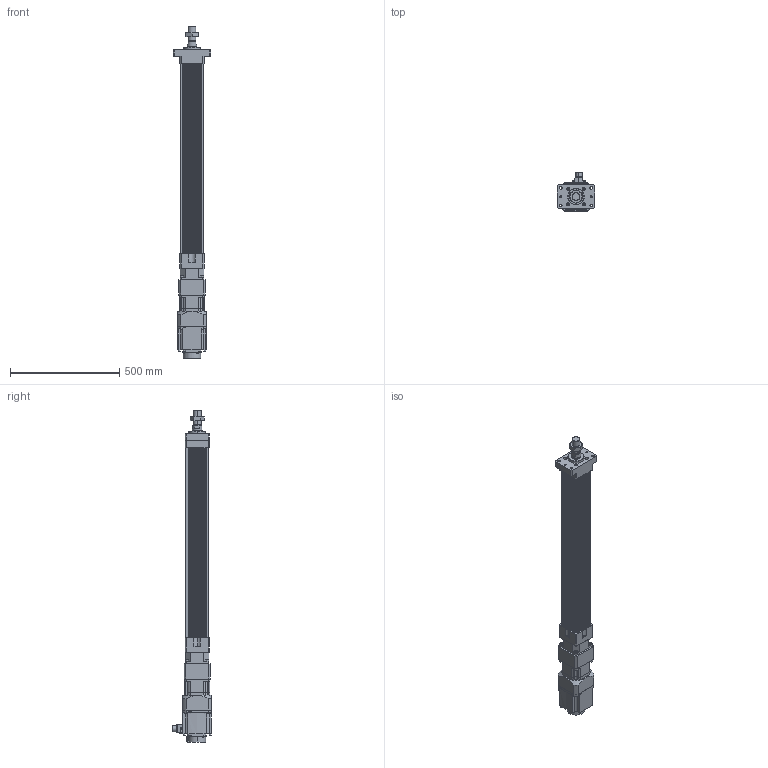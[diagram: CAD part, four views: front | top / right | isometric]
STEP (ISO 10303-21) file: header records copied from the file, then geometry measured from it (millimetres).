
FILE_DESCRIPTION (( 'STEP AP203' ), '1' );
FILE_NAME ('HES110NS(HS)-S700-W015G00-M-FM.STEP', '2023-01-28T06:53:18', ( 'tms' ), ( '' ), 'SwSTEP 2.0', 'SolidWorks 2013', '' );
FILE_SCHEMA (( 'CONFIG_CONTROL_DESIGN' ));
Length unit declared in the file: millimetre
Products named in the file (8): AB1151; HES110-S700-G120-FM; HG-SR152; M36X1.5P; AB115-003[HG-SR152]; HES110 ROD M ST700; P0401400706; HES110NS(HS)-S700-W015G00-M-FM
Assembly tree (7 placements, depth 3):
  HES110NS(HS)-S700-W015G00-M-FM
    HES110-S700-G120-FM
    HES110 ROD M ST700
    M36X1.5P
    AB115-003[HG-SR152]
      AB1151
      P0401400706
    HG-SR152
Bounding box: 170 x 177.49 x 1521.5 mm (x, y, z)
Volume: 9817646.4 mm3; surface area: 1399435.7 mm2
Topology: 4 solids, 15 shells, 1170 faces, 2958 edges, 1925 vertices
Faces by surface type: plane 559, cylinder 525, cone 74, bspline 8, torus 4
Entity records: 36974 total; most frequent: CARTESIAN_POINT 7028, DIRECTION 6389, ORIENTED_EDGE 5864, EDGE_CURVE 2942, AXIS2_PLACEMENT_3D 2346, VERTEX_POINT 1925, LINE 1697, VECTOR 1697
